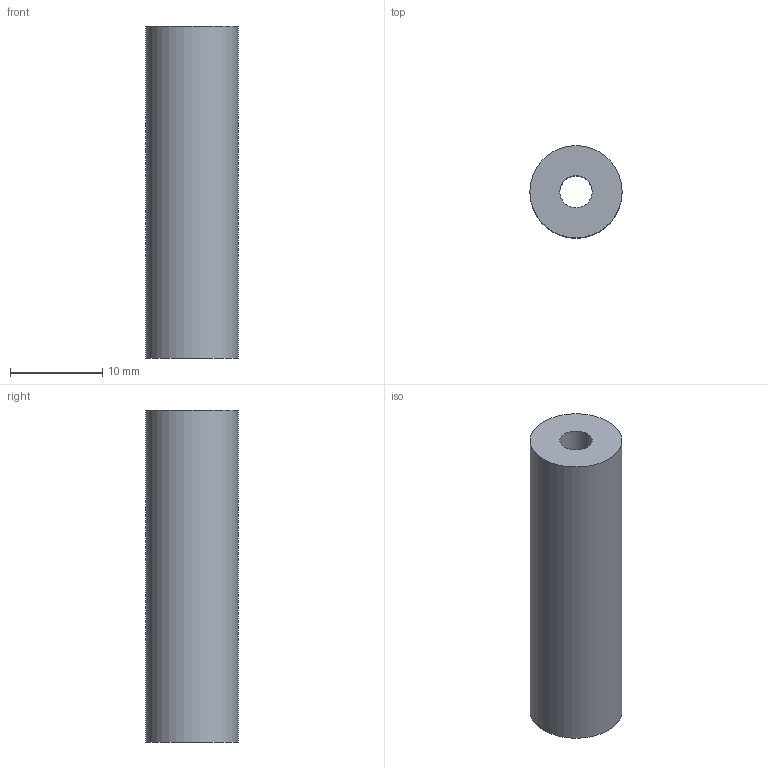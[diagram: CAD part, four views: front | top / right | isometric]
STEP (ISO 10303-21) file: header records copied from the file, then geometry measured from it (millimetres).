
FILE_DESCRIPTION(('Open CASCADE Model'),'2;1');
FILE_NAME('Open CASCADE Shape Model','2026-10-12T22:10:13',('Author'),( 'Open CASCADE'),'Open CASCADE STEP processor 7.9','Open CASCADE 7.9' ,'Unknown');
FILE_SCHEMA(('AUTOMOTIVE_DESIGN { 1 0 10303 214 1 1 1 1 }'));
Length unit declared in the file: millimetre
Products named in the file (1): Open CASCADE STEP translator 7.9 3
Bounding box: 10 x 10 x 36 mm (x, y, z)
Volume: 2481.1 mm3; surface area: 1664.7 mm2
Topology: 1 solids, 1 shells, 4 faces, 6 edges, 4 vertices
Faces by surface type: cylinder 2, plane 2
Full cylindrical faces by diameter (mm): 3.5 x1, 10 x1
Entity records: 186 total; most frequent: DIRECTION 32, CARTESIAN_POINT 27, ORIENTED_EDGE 12, PCURVE 12, DEFINITIONAL_REPRESENTATION 12, LINE 10, VECTOR 10, AXIS2_PLACEMENT_3D 9
